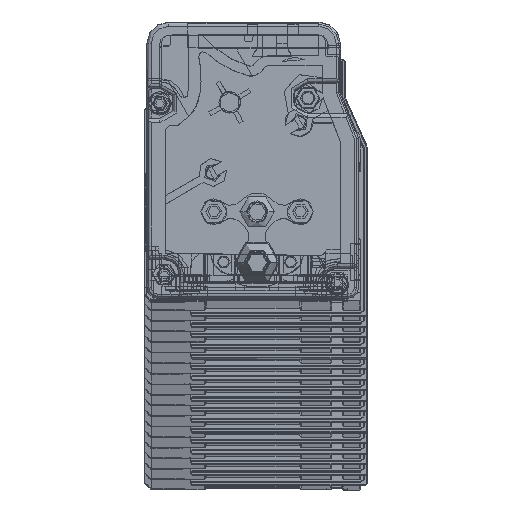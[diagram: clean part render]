
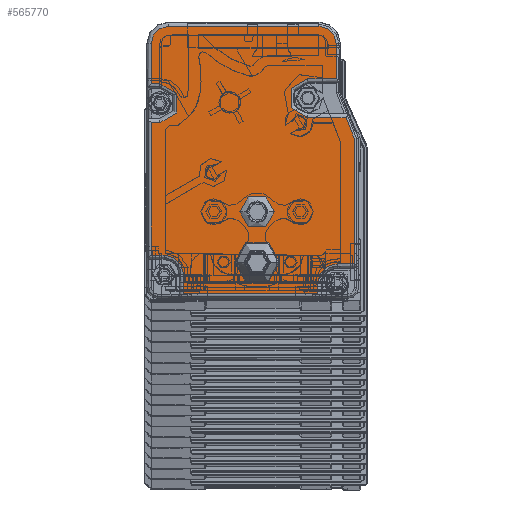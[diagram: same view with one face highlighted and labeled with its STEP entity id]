
A CAD part, top view. The second image highlights one B-rep face of the part: STEP entity #565770.
In plain terms, the highlighted planar face has unit normal (0, 0, 1).
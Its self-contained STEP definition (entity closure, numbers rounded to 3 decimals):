
#563660=CARTESIAN_POINT('',(-20.265,1.758,
3572.39));
#563670=DIRECTION('',(0.,0.,-1.));
#563680=DIRECTION('',(-1.,0.,0.));
#563690=AXIS2_PLACEMENT_3D('',#563660,#563670,#563680);
#563700=PLANE('',#563690);
#563710=CARTESIAN_POINT('',(-44.056,10.421,
3572.39));
#563720=DIRECTION('',(0.,0.,-1.));
#563730=DIRECTION('',(-1.,0.,0.));
#563740=AXIS2_PLACEMENT_3D('',#563710,#563720,#563730);
#563750=CIRCLE('',#563740,5.);
#563760=CARTESIAN_POINT('',(-49.056,10.421,
3572.39));
#563770=VERTEX_POINT('',#563760);
#563780=CARTESIAN_POINT('',(-39.056,10.421,
3572.39));
#563790=VERTEX_POINT('',#563780);
#563800=EDGE_CURVE('',#563770,#563790,#563750,.T.);
#563810=ORIENTED_EDGE('',*,*,#563800,.T.);
#563820=EDGE_CURVE('',#563790,#563770,#563750,.T.);
#563830=ORIENTED_EDGE('',*,*,#563820,.T.);
#563840=EDGE_LOOP('',(#563830,#563810));
#563850=FACE_BOUND('',#563840,.T.);
#563860=CARTESIAN_POINT('',(-44.059,22.124,
3572.39));
#563870=DIRECTION('',(0.,0.,1.));
#563880=DIRECTION('',(-1.,0.,0.));
#563890=AXIS2_PLACEMENT_3D('',#563860,#563870,#563880);
#563900=CIRCLE('',#563890,4.);
#563910=CARTESIAN_POINT('',(-40.059,22.124,
3572.39));
#563920=VERTEX_POINT('',#563910);
#563930=CARTESIAN_POINT('',(-48.059,22.124,
3572.39));
#563940=VERTEX_POINT('',#563930);
#563950=EDGE_CURVE('',#563920,#563940,#563900,.T.);
#563960=ORIENTED_EDGE('',*,*,#563950,.F.);
#563970=EDGE_CURVE('',#563940,#563920,#563900,.T.);
#563980=ORIENTED_EDGE('',*,*,#563970,.F.);
#563990=EDGE_LOOP('',(#563980,#563960));
#564000=FACE_BOUND('',#563990,.T.);
#564010=CARTESIAN_POINT('',(-61.059,2.124,
3572.39));
#564020=DIRECTION('',(0.,-1.,0.));
#564030=VECTOR('',#564020,1.);
#564040=LINE('',#564010,#564030);
#564050=CARTESIAN_POINT('',(-61.059,7.624,
3572.39));
#564060=VERTEX_POINT('',#564050);
#564070=CARTESIAN_POINT('',(-61.059,3.124,
3572.39));
#564080=VERTEX_POINT('',#564070);
#564090=EDGE_CURVE('',#564060,#564080,#564040,.T.);
#564100=ORIENTED_EDGE('',*,*,#564090,.T.);
#564110=CARTESIAN_POINT('',(-65.559,7.624,
3572.39));
#564120=DIRECTION('',(0.,0.,-1.));
#564130=DIRECTION('',(-1.,0.,0.));
#564140=AXIS2_PLACEMENT_3D('',#564110,#564120,#564130);
#564150=CIRCLE('',#564140,4.5);
#564160=CARTESIAN_POINT('',(-65.559,12.124,
3572.39));
#564170=VERTEX_POINT('',#564160);
#564180=EDGE_CURVE('',#564170,#564060,#564150,.T.);
#564190=ORIENTED_EDGE('',*,*,#564180,.T.);
#564200=CARTESIAN_POINT('',(-20.559,12.124,
3572.39));
#564210=DIRECTION('',(1.,0.,0.));
#564220=VECTOR('',#564210,1.);
#564230=LINE('',#564200,#564220);
#564240=CARTESIAN_POINT('',(-68.559,12.124,
3572.39));
#564250=VERTEX_POINT('',#564240);
#564260=EDGE_CURVE('',#564250,#564170,#564230,.T.);
#564270=ORIENTED_EDGE('',*,*,#564260,.T.);
#564280=CARTESIAN_POINT('',(-68.559,2.124,
3572.39));
#564290=DIRECTION('',(0.,-1.,0.));
#564300=VECTOR('',#564290,1.);
#564310=LINE('',#564280,#564300);
#564320=CARTESIAN_POINT('',(-68.559,42.727,
3572.39));
#564330=VERTEX_POINT('',#564320);
#564340=EDGE_CURVE('',#564330,#564250,#564310,.T.);
#564350=ORIENTED_EDGE('',*,*,#564340,.T.);
#564360=CARTESIAN_POINT('',(-20.559,42.727,
3572.39));
#564370=DIRECTION('',(-1.,0.,0.));
#564380=VECTOR('',#564370,1.);
#564390=LINE('',#564360,#564380);
#564400=CARTESIAN_POINT('',(-66.559,42.727,
3572.39));
#564410=VERTEX_POINT('',#564400);
#564420=EDGE_CURVE('',#564410,#564330,#564390,.T.);
#564430=ORIENTED_EDGE('',*,*,#564420,.T.);
#564440=CARTESIAN_POINT('',(-66.559,47.227,
3572.39));
#564450=DIRECTION('',(0.,0.,-1.));
#564460=DIRECTION('',(-1.,0.,0.));
#564470=AXIS2_PLACEMENT_3D('',#564440,#564450,#564460);
#564480=CIRCLE('',#564470,4.5);
#564490=CARTESIAN_POINT('',(-66.559,51.727,
3572.39));
#564500=VERTEX_POINT('',#564490);
#564510=EDGE_CURVE('',#564500,#564410,#564480,.T.);
#564520=ORIENTED_EDGE('',*,*,#564510,.T.);
#564530=CARTESIAN_POINT('',(-20.559,51.727,
3572.39));
#564540=DIRECTION('',(1.,0.,0.));
#564550=VECTOR('',#564540,1.);
#564560=LINE('',#564530,#564550);
#564570=CARTESIAN_POINT('',(-68.559,51.727,
3572.39));
#564580=VERTEX_POINT('',#564570);
#564590=EDGE_CURVE('',#564580,#564500,#564560,.T.);
#564600=ORIENTED_EDGE('',*,*,#564590,.T.);
#564610=CARTESIAN_POINT('',(-68.559,2.124,
3572.39));
#564620=DIRECTION('',(0.,-1.,0.));
#564630=VECTOR('',#564620,1.);
#564640=LINE('',#564610,#564630);
#564650=CARTESIAN_POINT('',(-68.559,61.024,
3572.39));
#564660=VERTEX_POINT('',#564650);
#564670=EDGE_CURVE('',#564660,#564580,#564640,.T.);
#564680=ORIENTED_EDGE('',*,*,#564670,.T.);
#564690=CARTESIAN_POINT('',(-64.559,61.024,
3572.39));
#564700=DIRECTION('',(0.,0.,1.));
#564710=DIRECTION('',(1.,0.,0.));
#564720=AXIS2_PLACEMENT_3D('',#564690,#564700,#564710);
#564730=CIRCLE('',#564720,4.);
#564740=CARTESIAN_POINT('',(-64.559,65.024,
3572.39));
#564750=VERTEX_POINT('',#564740);
#564760=EDGE_CURVE('',#564750,#564660,#564730,.T.);
#564770=ORIENTED_EDGE('',*,*,#564760,.T.);
#564780=CARTESIAN_POINT('',(-20.559,65.024,
3572.39));
#564790=DIRECTION('',(-1.,0.,0.));
#564800=VECTOR('',#564790,1.);
#564810=LINE('',#564780,#564800);
#564820=CARTESIAN_POINT('',(-29.759,65.024,
3572.39));
#564830=VERTEX_POINT('',#564820);
#564840=EDGE_CURVE('',#564830,#564750,#564810,.T.);
#564850=ORIENTED_EDGE('',*,*,#564840,.T.);
#564860=CARTESIAN_POINT('',(-29.759,61.024,
3572.39));
#564870=DIRECTION('',(0.,0.,1.));
#564880=DIRECTION('',(1.,0.,0.));
#564890=AXIS2_PLACEMENT_3D('',#564860,#564870,#564880);
#564900=CIRCLE('',#564890,4.);
#564910=CARTESIAN_POINT('',(-25.759,61.024,
3572.39));
#564920=VERTEX_POINT('',#564910);
#564930=EDGE_CURVE('',#564920,#564830,#564900,.T.);
#564940=ORIENTED_EDGE('',*,*,#564930,.T.);
#564950=CARTESIAN_POINT('',(-25.759,2.124,
3572.39));
#564960=DIRECTION('',(0.,1.,0.));
#564970=VECTOR('',#564960,1.);
#564980=LINE('',#564950,#564970);
#564990=CARTESIAN_POINT('',(-25.759,52.924,
3572.39));
#565000=VERTEX_POINT('',#564990);
#565010=EDGE_CURVE('',#565000,#564920,#564980,.T.);
#565020=ORIENTED_EDGE('',*,*,#565010,.T.);
#565030=CARTESIAN_POINT('',(-20.559,52.924,
3572.39));
#565040=DIRECTION('',(-1.,0.,0.));
#565050=VECTOR('',#565040,1.);
#565060=LINE('',#565030,#565050);
#565070=CARTESIAN_POINT('',(-32.309,52.924,
3572.39));
#565080=VERTEX_POINT('',#565070);
#565090=EDGE_CURVE('',#565000,#565080,#565060,.T.);
#565100=ORIENTED_EDGE('',*,*,#565090,.F.);
#565110=CARTESIAN_POINT('',(-32.309,48.424,
3572.39));
#565120=DIRECTION('',(0.,0.,-1.));
#565130=DIRECTION('',(-1.,0.,0.));
#565140=AXIS2_PLACEMENT_3D('',#565110,#565120,#565130);
#565150=CIRCLE('',#565140,4.5);
#565160=CARTESIAN_POINT('',(-32.309,43.924,
3572.39));
#565170=VERTEX_POINT('',#565160);
#565180=EDGE_CURVE('',#565170,#565080,#565150,.T.);
#565190=ORIENTED_EDGE('',*,*,#565180,.T.);
#565200=CARTESIAN_POINT('',(-20.559,43.924,
3572.39));
#565210=DIRECTION('',(-1.,0.,0.));
#565220=VECTOR('',#565210,1.);
#565230=LINE('',#565200,#565220);
#565240=CARTESIAN_POINT('',(-23.499,43.924,
3572.39));
#565250=VERTEX_POINT('',#565240);
#565260=EDGE_CURVE('',#565250,#565170,#565230,.T.);
#565270=ORIENTED_EDGE('',*,*,#565260,.T.);
#565280=CARTESIAN_POINT('',(-7.243,2.124,
3572.39));
#565290=DIRECTION('',(0.362,-0.932,0.));
#565300=VECTOR('',#565290,1.);
#565310=LINE('',#565280,#565300);
#565320=CARTESIAN_POINT('',(-21.559,38.937,
3572.39));
#565330=VERTEX_POINT('',#565320);
#565340=EDGE_CURVE('',#565250,#565330,#565310,.T.);
#565350=ORIENTED_EDGE('',*,*,#565340,.F.);
#565360=CARTESIAN_POINT('',(-21.559,2.124,
3572.39));
#565370=DIRECTION('',(0.,-1.,0.));
#565380=VECTOR('',#565370,1.);
#565390=LINE('',#565360,#565380);
#565400=CARTESIAN_POINT('',(-21.559,10.124,
3572.39));
#565410=VERTEX_POINT('',#565400);
#565420=EDGE_CURVE('',#565330,#565410,#565390,.T.);
#565430=ORIENTED_EDGE('',*,*,#565420,.F.);
#565440=CARTESIAN_POINT('',(-20.559,10.124,
3572.39));
#565450=DIRECTION('',(1.,0.,0.));
#565460=VECTOR('',#565450,1.);
#565470=LINE('',#565440,#565460);
#565480=CARTESIAN_POINT('',(-25.559,10.124,
3572.39));
#565490=VERTEX_POINT('',#565480);
#565500=EDGE_CURVE('',#565490,#565410,#565470,.T.);
#565510=ORIENTED_EDGE('',*,*,#565500,.T.);
#565520=CARTESIAN_POINT('',(-25.559,5.624,
3572.39));
#565530=DIRECTION('',(0.,0.,-1.));
#565540=DIRECTION('',(-1.,0.,0.));
#565550=AXIS2_PLACEMENT_3D('',#565520,#565530,#565540);
#565560=CIRCLE('',#565550,4.5);
#565570=CARTESIAN_POINT('',(-30.059,5.624,
3572.39));
#565580=VERTEX_POINT('',#565570);
#565590=EDGE_CURVE('',#565580,#565490,#565560,.T.);
#565600=ORIENTED_EDGE('',*,*,#565590,.T.);
#565610=CARTESIAN_POINT('',(-30.059,2.124,
3572.39));
#565620=DIRECTION('',(0.,1.,0.));
#565630=VECTOR('',#565620,1.);
#565640=LINE('',#565610,#565630);
#565650=CARTESIAN_POINT('',(-30.059,3.124,
3572.39));
#565660=VERTEX_POINT('',#565650);
#565670=EDGE_CURVE('',#565660,#565580,#565640,.T.);
#565680=ORIENTED_EDGE('',*,*,#565670,.T.);
#565690=CARTESIAN_POINT('',(-20.559,3.124,
3572.39));
#565700=DIRECTION('',(-1.,0.,0.));
#565710=VECTOR('',#565700,1.);
#565720=LINE('',#565690,#565710);
#565730=EDGE_CURVE('',#565660,#564080,#565720,.T.);
#565740=ORIENTED_EDGE('',*,*,#565730,.F.);
#565750=EDGE_LOOP('',(#565740,#565680,#565600,#565510,#565430,#565350,
#565270,#565190,#565100,#565020,#564940,#564850,#564770,#564680,#564600,
#564520,#564430,#564350,#564270,#564190,#564100));
#565760=FACE_OUTER_BOUND('',#565750,.T.);
#565770=ADVANCED_FACE('',(#563850,#564000,#565760),#563700,.F.);
